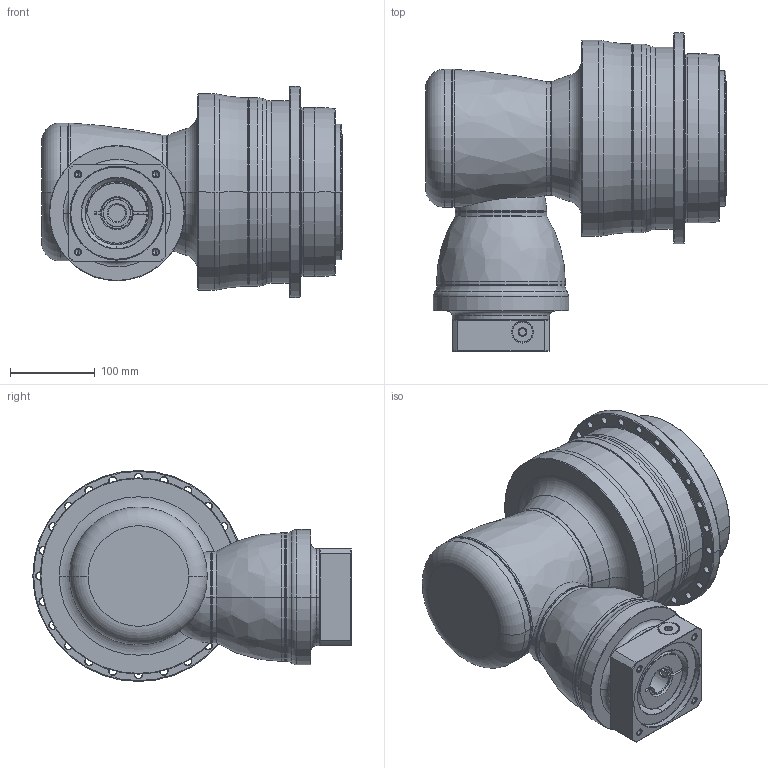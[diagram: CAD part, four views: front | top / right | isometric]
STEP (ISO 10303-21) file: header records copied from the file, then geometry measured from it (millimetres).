
FILE_DESCRIPTION((''),'2;1');
FILE_NAME('APK200_3ST_32-P0409710201_ASM','2018-07-20T',('D00080'),(''),'PRO/ENGINEER BY PARAMETRIC TECHNOLOGY CORPORATION, 2008170','PRO/ENGINEER BY PARAMETRIC TECHNOLOGY CORPORATION, 2008170','');
FILE_SCHEMA(('CONFIG_CONTROL_DESIGN'));
Length unit declared in the file: millimetre
Products named in the file (13): P1008500002; P1832600001; P0278601003; P0359601103; P1211600001; P1315500001; P1007501001; P1318501201; P0503700010; P0912552001; P0409710201; 21711418017; APK200_3ST_32-P0409710201_ASM
Assembly tree (12 placements, depth 2):
  APK200_3ST_32-P0409710201_ASM
    P1008500002
    P1832600001
    P0278601003
    P0359601103
    P1211600001
    P1315500001
    P1007501001
    P1318501201
    P0503700010
    P0912552001
    P0409710201
    21711418017
Bounding box: 355.5 x 376.25 x 249.5 mm (x, y, z)
Volume: 12181772.8 mm3; surface area: 919349.9 mm2
Topology: 13 solids, 38 shells, 769 faces, 1803 edges, 1089 vertices
Faces by surface type: cylinder 311, cone 221, plane 129, torus 85, bspline 21, sphere 2
Entity records: 27247 total; most frequent: CARTESIAN_POINT 8985, DIRECTION 4202, ORIENTED_EDGE 3416, AXIS2_PLACEMENT_3D 1803, EDGE_CURVE 1759, VERTEX_POINT 1089, CIRCLE 1020, EDGE_LOOP 906
